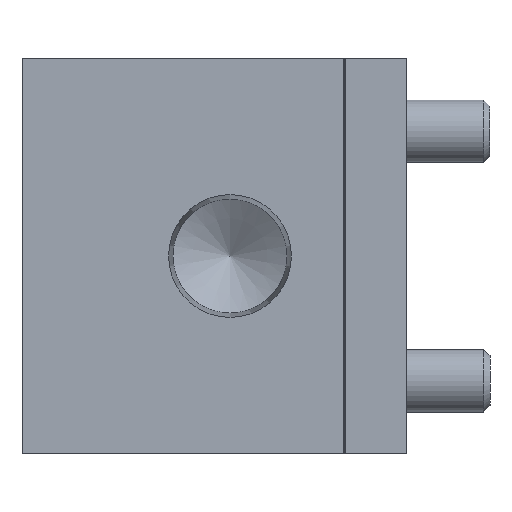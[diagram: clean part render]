
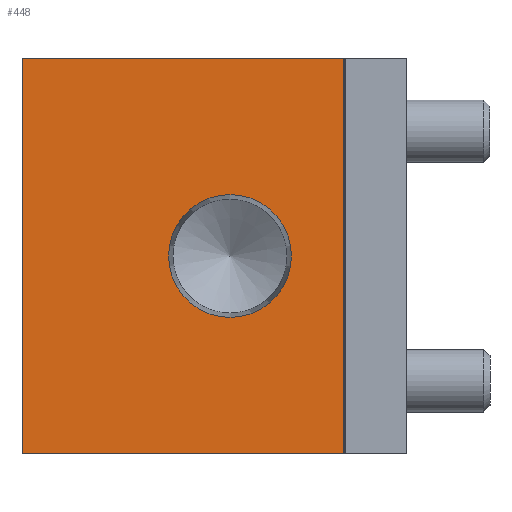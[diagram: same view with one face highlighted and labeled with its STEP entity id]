
A CAD part, left-side view. The second image highlights one B-rep face of the part: STEP entity #448.
In plain terms, the highlighted planar face has unit normal (-1, 0, 0).
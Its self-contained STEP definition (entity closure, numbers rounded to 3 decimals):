
#448 = ADVANCED_FACE( '', ( #924, #925 ), #926, .F. );
#924 = FACE_BOUND( '', #1441, .T. );
#925 = FACE_OUTER_BOUND( '', #1442, .T. );
#926 = PLANE( '', #1443 );
#1441 = EDGE_LOOP( '', ( #2347 ) );
#1442 = EDGE_LOOP( '', ( #2348, #2349, #2350, #2351 ) );
#1443 = AXIS2_PLACEMENT_3D( '', #2352, #2353, #2354 );
#2347 = ORIENTED_EDGE( '', *, *, #2887, .T. );
#2348 = ORIENTED_EDGE( '', *, *, #3080, .T. );
#2349 = ORIENTED_EDGE( '', *, *, #3096, .F. );
#2350 = ORIENTED_EDGE( '', *, *, #3066, .F. );
#2351 = ORIENTED_EDGE( '', *, *, #3060, .T. );
#2352 = CARTESIAN_POINT( '', ( 0., 37., 19. ) );
#2353 = DIRECTION( '', ( 1., 0., 0. ) );
#2354 = DIRECTION( '', ( 0., 0., -1. ) );
#2887 = EDGE_CURVE( '', #3397, #3397, #3398, .T. );
#3060 = EDGE_CURVE( '', #3644, #3642, #3645, .T. );
#3066 = EDGE_CURVE( '', #3644, #3652, #3653, .T. );
#3080 = EDGE_CURVE( '', #3642, #3667, #3669, .T. );
#3096 = EDGE_CURVE( '', #3652, #3667, #3686, .T. );
#3397 = VERTEX_POINT( '', #4058 );
#3398 = CIRCLE( '', #4059, 5.91 );
#3642 = VERTEX_POINT( '', #4384 );
#3644 = VERTEX_POINT( '', #4387 );
#3645 = LINE( '', #4388, #4389 );
#3652 = VERTEX_POINT( '', #4398 );
#3653 = LINE( '', #4399, #4400 );
#3667 = VERTEX_POINT( '', #4422 );
#3669 = LINE( '', #4425, #4426 );
#3686 = LINE( '', #4448, #4449 );
#4058 = CARTESIAN_POINT( '', ( 0., 17., -5.91 ) );
#4059 = AXIS2_PLACEMENT_3D( '', #4718, #4719, #4720 );
#4384 = CARTESIAN_POINT( '', ( 0., 37., -19. ) );
#4387 = CARTESIAN_POINT( '', ( 0., 37., 19. ) );
#4388 = CARTESIAN_POINT( '', ( 0., 37., 19. ) );
#4389 = VECTOR( '', #4908, 1000. );
#4398 = CARTESIAN_POINT( '', ( 0., 6.1, 19. ) );
#4399 = CARTESIAN_POINT( '', ( 0., 37., 19. ) );
#4400 = VECTOR( '', #4914, 1000. );
#4422 = CARTESIAN_POINT( '', ( 0., 6.1, -19. ) );
#4425 = CARTESIAN_POINT( '', ( 0., 37., -19. ) );
#4426 = VECTOR( '', #4924, 1000. );
#4448 = CARTESIAN_POINT( '', ( 0., 6.1, 19. ) );
#4449 = VECTOR( '', #4939, 1000. );
#4718 = CARTESIAN_POINT( '', ( 0., 17., 0. ) );
#4719 = DIRECTION( '', ( 1., 0., 0. ) );
#4720 = DIRECTION( '', ( 0., 0., -1. ) );
#4908 = DIRECTION( '', ( 0., 0., -1. ) );
#4914 = DIRECTION( '', ( 0., -1., 0. ) );
#4924 = DIRECTION( '', ( 0., -1., 0. ) );
#4939 = DIRECTION( '', ( 0., 0., -1. ) );
